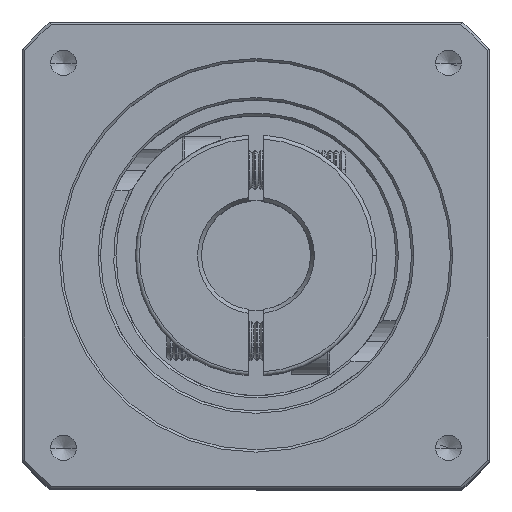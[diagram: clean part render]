
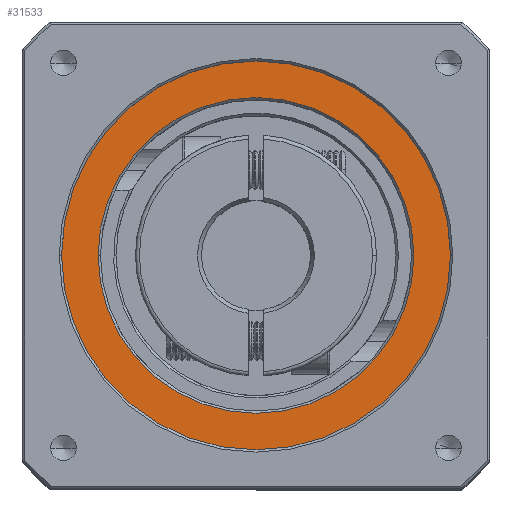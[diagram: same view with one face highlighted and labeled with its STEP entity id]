
A CAD part, top view. The second image highlights one B-rep face of the part: STEP entity #31533.
In plain terms, the highlighted planar face has unit normal (0, 0, 1).
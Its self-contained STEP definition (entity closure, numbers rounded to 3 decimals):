
#3632 = ORIENTED_EDGE ( 'NONE', *, *, #39623, .T. ) ;
#10804 = CARTESIAN_POINT ( 'NONE',  ( -59.367, 7.391, -1.11 ) ) ;
#12965 = EDGE_LOOP ( 'NONE', ( #34339, #76522 ) ) ;
#16712 = EDGE_LOOP ( 'NONE', ( #3632, #63989 ) ) ;
#17502 = DIRECTION ( 'NONE',  ( 1., 0., 0. ) ) ;
#19948 = DIRECTION ( 'NONE',  ( 0., 0., -1. ) ) ;
#23681 = VERTEX_POINT ( 'NONE', #30736 ) ;
#23736 = CIRCLE ( 'NONE', #64390, 25. ) ;
#26266 = EDGE_CURVE ( 'NONE', #70296, #66043, #23736, .T. ) ;
#28463 = AXIS2_PLACEMENT_3D ( 'NONE', #59665, #19948, #66366 ) ;
#30736 = CARTESIAN_POINT ( 'NONE',  ( -39.067, 7.391, -1.11 ) ) ;
#31533 = ADVANCED_FACE ( 'NONE', ( #78467, #45206 ), #78236, .T. ) ;
#31577 = CARTESIAN_POINT ( 'NONE',  ( -79.667, 7.391, -1.11 ) ) ;
#32082 = CARTESIAN_POINT ( 'NONE',  ( -59.367, 7.391, -1.11 ) ) ;
#34339 = ORIENTED_EDGE ( 'NONE', *, *, #44404, .T. ) ;
#38531 = CARTESIAN_POINT ( 'NONE',  ( -59.367, 7.391, -1.11 ) ) ;
#38732 = DIRECTION ( 'NONE',  ( 1., 0., 0. ) ) ;
#39460 = DIRECTION ( 'NONE',  ( 0., 0., -1. ) ) ;
#39623 = EDGE_CURVE ( 'NONE', #66043, #70296, #61524, .T. ) ;
#44404 = EDGE_CURVE ( 'NONE', #23681, #62873, #59453, .T. ) ;
#45192 = DIRECTION ( 'NONE',  ( 1., 0., 0. ) ) ;
#45206 = FACE_OUTER_BOUND ( 'NONE', #16712, .T. ) ;
#47956 = AXIS2_PLACEMENT_3D ( 'NONE', #79223, #39460, #85927 ) ;
#57205 = DIRECTION ( 'NONE',  ( 0., 0., 1. ) ) ;
#57811 = CIRCLE ( 'NONE', #47956, 20.3 ) ;
#59453 = CIRCLE ( 'NONE', #28463, 20.3 ) ;
#59665 = CARTESIAN_POINT ( 'NONE',  ( -59.367, 7.391, -1.11 ) ) ;
#61524 = CIRCLE ( 'NONE', #69733, 25. ) ;
#62297 = EDGE_CURVE ( 'NONE', #62873, #23681, #57811, .T. ) ;
#62364 = AXIS2_PLACEMENT_3D ( 'NONE', #32082, #78516, #38732 ) ;
#62873 = VERTEX_POINT ( 'NONE', #31577 ) ;
#63989 = ORIENTED_EDGE ( 'NONE', *, *, #26266, .T. ) ;
#64390 = AXIS2_PLACEMENT_3D ( 'NONE', #10804, #57205, #17502 ) ;
#66043 = VERTEX_POINT ( 'NONE', #78392 ) ;
#66366 = DIRECTION ( 'NONE',  ( 1., 0., 0. ) ) ;
#69733 = AXIS2_PLACEMENT_3D ( 'NONE', #38531, #85014, #45192 ) ;
#70296 = VERTEX_POINT ( 'NONE', #79613 ) ;
#76522 = ORIENTED_EDGE ( 'NONE', *, *, #62297, .T. ) ;
#78236 = PLANE ( 'NONE',  #62364 ) ;
#78392 = CARTESIAN_POINT ( 'NONE',  ( -34.367, 7.391, -1.11 ) ) ;
#78467 = FACE_BOUND ( 'NONE', #12965, .T. ) ;
#78516 = DIRECTION ( 'NONE',  ( 0., 0., 1. ) ) ;
#79223 = CARTESIAN_POINT ( 'NONE',  ( -59.367, 7.391, -1.11 ) ) ;
#79613 = CARTESIAN_POINT ( 'NONE',  ( -84.367, 7.391, -1.11 ) ) ;
#85014 = DIRECTION ( 'NONE',  ( 0., 0., 1. ) ) ;
#85927 = DIRECTION ( 'NONE',  ( 1., 0., 0. ) ) ;
